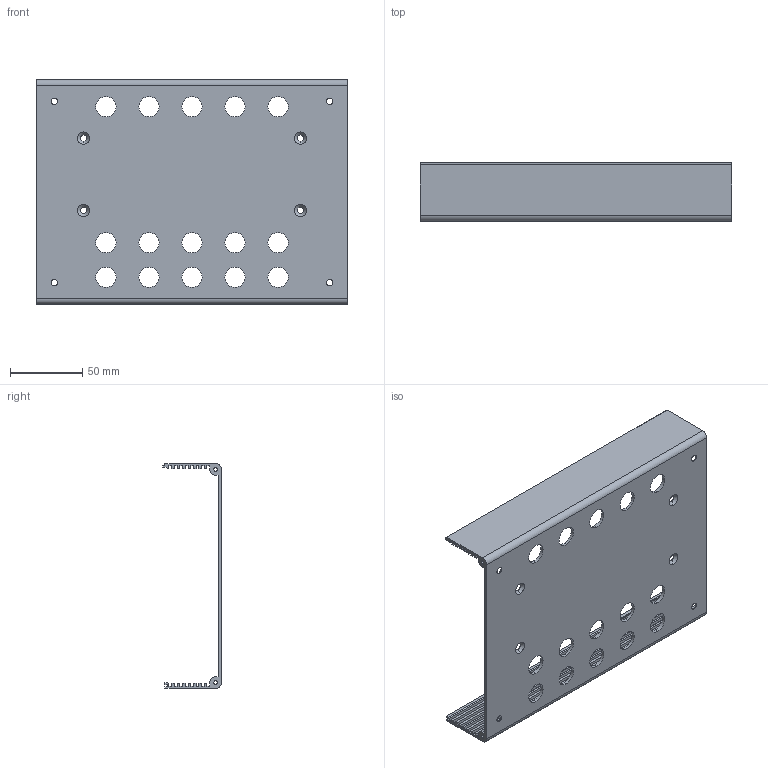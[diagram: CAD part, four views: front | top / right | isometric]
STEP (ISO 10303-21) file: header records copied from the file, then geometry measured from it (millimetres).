
FILE_DESCRIPTION (( 'STEP AP214' ), '1' );
FILE_NAME ('Box_Bottom.STEP', '2015-03-16T04:46:09', ( '' ), ( '' ), '', '', '' );
FILE_SCHEMA (( '' ));
Length unit declared in the file: millimetre
Products named in the file (1): Box_Bottom
Bounding box: 215.5 x 40.6 x 155.5 mm (x, y, z)
Volume: 114307 mm3; surface area: 115420.4 mm2
Topology: 1 solids, 1 shells, 152 faces, 434 edges, 284 vertices
Faces by surface type: plane 82, cylinder 54, cone 16
Entity records: 5077 total; most frequent: CARTESIAN_POINT 871, ORIENTED_EDGE 868, DIRECTION 864, EDGE_CURVE 434, LINE 310, VECTOR 310, VERTEX_POINT 284, AXIS2_PLACEMENT_3D 277
